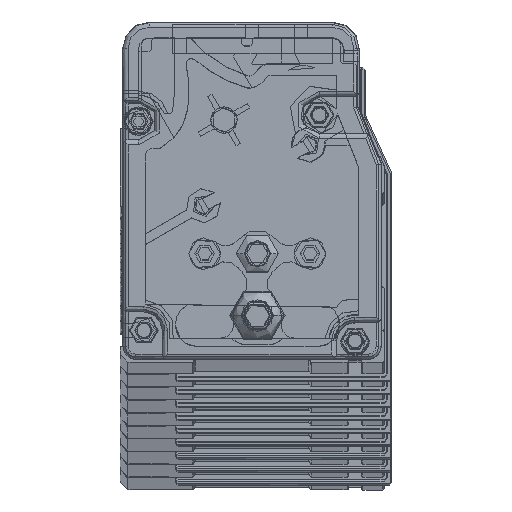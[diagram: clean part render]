
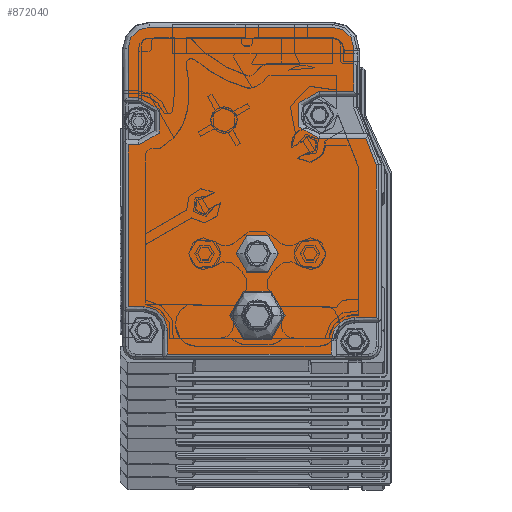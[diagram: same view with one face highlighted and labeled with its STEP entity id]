
A CAD part, top view. The second image highlights one B-rep face of the part: STEP entity #872040.
In plain terms, the highlighted planar face has unit normal (0, 0, 1).
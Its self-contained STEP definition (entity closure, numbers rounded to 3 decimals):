
#777820=CARTESIAN_POINT('',(-65.559,7.624,
2158.89));
#777830=DIRECTION('',(0.,0.,-1.));
#777840=DIRECTION('',(-1.,0.,0.));
#777850=AXIS2_PLACEMENT_3D('',#777820,#777830,#777840);
#777860=CIRCLE('',#777850,4.5);
#777870=CARTESIAN_POINT('',(-65.559,12.124,
2158.89));
#777880=VERTEX_POINT('',#777870);
#777890=CARTESIAN_POINT('',(-61.059,7.624,
2158.89));
#777900=VERTEX_POINT('',#777890);
#777910=EDGE_CURVE('',#777880,#777900,#777860,.T.);
#779530=CARTESIAN_POINT('',(-21.559,2.124,
2158.89));
#779540=DIRECTION('',(0.,-1.,0.));
#779550=VECTOR('',#779540,1.);
#779560=LINE('',#779530,#779550);
#779570=CARTESIAN_POINT('',(-21.559,38.937,
2158.89));
#779580=VERTEX_POINT('',#779570);
#779590=CARTESIAN_POINT('',(-21.559,10.124,
2158.89));
#779600=VERTEX_POINT('',#779590);
#779610=EDGE_CURVE('',#779580,#779600,#779560,.T.);
#783480=CARTESIAN_POINT('',(-20.559,10.124,
2158.89));
#783490=DIRECTION('',(1.,0.,0.));
#783500=VECTOR('',#783490,1.);
#783510=LINE('',#783480,#783500);
#783520=CARTESIAN_POINT('',(-25.559,10.124,
2158.89));
#783530=VERTEX_POINT('',#783520);
#783540=EDGE_CURVE('',#783530,#779600,#783510,.T.);
#787970=CARTESIAN_POINT('',(-20.559,65.024,
2158.89));
#787980=DIRECTION('',(-1.,0.,0.));
#787990=VECTOR('',#787980,1.);
#788000=LINE('',#787970,#787990);
#788010=CARTESIAN_POINT('',(-29.759,65.024,
2158.89));
#788020=VERTEX_POINT('',#788010);
#788030=CARTESIAN_POINT('',(-64.559,65.024,
2158.89));
#788040=VERTEX_POINT('',#788030);
#788050=EDGE_CURVE('',#788020,#788040,#788000,.T.);
#809950=CARTESIAN_POINT('',(-25.759,2.124,
2158.89));
#809960=DIRECTION('',(0.,1.,0.));
#809970=VECTOR('',#809960,1.);
#809980=LINE('',#809950,#809970);
#809990=CARTESIAN_POINT('',(-25.759,52.924,
2158.89));
#810000=VERTEX_POINT('',#809990);
#810010=CARTESIAN_POINT('',(-25.759,61.024,
2158.89));
#810020=VERTEX_POINT('',#810010);
#810030=EDGE_CURVE('',#810000,#810020,#809980,.T.);
#810840=CARTESIAN_POINT('',(-32.309,48.424,
2158.89));
#810850=DIRECTION('',(0.,0.,-1.));
#810860=DIRECTION('',(-1.,0.,0.));
#810870=AXIS2_PLACEMENT_3D('',#810840,#810850,#810860);
#810880=CIRCLE('',#810870,4.5);
#810890=CARTESIAN_POINT('',(-32.309,43.924,
2158.89));
#810900=VERTEX_POINT('',#810890);
#810910=CARTESIAN_POINT('',(-32.309,52.924,
2158.89));
#810920=VERTEX_POINT('',#810910);
#810930=EDGE_CURVE('',#810900,#810920,#810880,.T.);
#835730=CARTESIAN_POINT('',(-68.559,2.124,
2158.89));
#835740=DIRECTION('',(0.,-1.,0.));
#835750=VECTOR('',#835740,1.);
#835760=LINE('',#835730,#835750);
#835770=CARTESIAN_POINT('',(-68.559,61.024,
2158.89));
#835780=VERTEX_POINT('',#835770);
#835790=CARTESIAN_POINT('',(-68.559,51.727,
2158.89));
#835800=VERTEX_POINT('',#835790);
#835810=EDGE_CURVE('',#835780,#835800,#835760,.T.);
#836290=CARTESIAN_POINT('',(-20.559,51.727,
2158.89));
#836300=DIRECTION('',(1.,0.,0.));
#836310=VECTOR('',#836300,1.);
#836320=LINE('',#836290,#836310);
#836330=CARTESIAN_POINT('',(-66.559,51.727,
2158.89));
#836340=VERTEX_POINT('',#836330);
#836350=EDGE_CURVE('',#835800,#836340,#836320,.T.);
#836970=CARTESIAN_POINT('',(-25.559,5.624,
2158.89));
#836980=DIRECTION('',(0.,0.,-1.));
#836990=DIRECTION('',(-1.,0.,0.));
#837000=AXIS2_PLACEMENT_3D('',#836970,#836980,#836990);
#837010=CIRCLE('',#837000,4.5);
#837020=CARTESIAN_POINT('',(-30.059,5.624,
2158.89));
#837030=VERTEX_POINT('',#837020);
#837040=EDGE_CURVE('',#837030,#783530,#837010,.T.);
#870500=CARTESIAN_POINT('',(-7.243,2.124,
2158.89));
#870510=DIRECTION('',(0.362,-0.932,0.));
#870520=VECTOR('',#870510,1.);
#870530=LINE('',#870500,#870520);
#870540=CARTESIAN_POINT('',(-23.499,43.924,
2158.89));
#870550=VERTEX_POINT('',#870540);
#870560=EDGE_CURVE('',#870550,#779580,#870530,.T.);
#870780=CARTESIAN_POINT('',(-20.265,1.758,
2158.89));
#870790=DIRECTION('',(0.,0.,-1.));
#870800=DIRECTION('',(-1.,0.,0.));
#870810=AXIS2_PLACEMENT_3D('',#870780,#870790,#870800);
#870820=PLANE('',#870810);
#870830=CARTESIAN_POINT('',(-44.056,10.421,
2158.89));
#870840=DIRECTION('',(0.,0.,-1.));
#870850=DIRECTION('',(-1.,0.,0.));
#870860=AXIS2_PLACEMENT_3D('',#870830,#870840,#870850);
#870870=CIRCLE('',#870860,5.);
#870880=CARTESIAN_POINT('',(-39.056,10.421,
2158.89));
#870890=VERTEX_POINT('',#870880);
#870900=CARTESIAN_POINT('',(-49.056,10.421,
2158.89));
#870910=VERTEX_POINT('',#870900);
#870920=EDGE_CURVE('',#870890,#870910,#870870,.T.);
#870930=ORIENTED_EDGE('',*,*,#870920,.T.);
#870940=EDGE_CURVE('',#870910,#870890,#870870,.T.);
#870950=ORIENTED_EDGE('',*,*,#870940,.T.);
#870960=EDGE_LOOP('',(#870950,#870930));
#870970=FACE_BOUND('',#870960,.T.);
#870980=CARTESIAN_POINT('',(-44.059,22.124,
2158.89));
#870990=DIRECTION('',(0.,0.,1.));
#871000=DIRECTION('',(-1.,0.,0.));
#871010=AXIS2_PLACEMENT_3D('',#870980,#870990,#871000);
#871020=CIRCLE('',#871010,4.);
#871030=CARTESIAN_POINT('',(-40.059,22.124,
2158.89));
#871040=VERTEX_POINT('',#871030);
#871050=CARTESIAN_POINT('',(-48.059,22.124,
2158.89));
#871060=VERTEX_POINT('',#871050);
#871070=EDGE_CURVE('',#871040,#871060,#871020,.T.);
#871080=ORIENTED_EDGE('',*,*,#871070,.F.);
#871090=EDGE_CURVE('',#871060,#871040,#871020,.T.);
#871100=ORIENTED_EDGE('',*,*,#871090,.F.);
#871110=EDGE_LOOP('',(#871100,#871080));
#871120=FACE_BOUND('',#871110,.T.);
#871130=CARTESIAN_POINT('',(-61.059,2.124,
2158.89));
#871140=DIRECTION('',(0.,-1.,0.));
#871150=VECTOR('',#871140,1.);
#871160=LINE('',#871130,#871150);
#871170=CARTESIAN_POINT('',(-61.059,3.124,
2158.89));
#871180=VERTEX_POINT('',#871170);
#871190=EDGE_CURVE('',#777900,#871180,#871160,.T.);
#871200=ORIENTED_EDGE('',*,*,#871190,.T.);
#871210=ORIENTED_EDGE('',*,*,#777910,.T.);
#871220=CARTESIAN_POINT('',(-20.559,12.124,
2158.89));
#871230=DIRECTION('',(1.,0.,0.));
#871240=VECTOR('',#871230,1.);
#871250=LINE('',#871220,#871240);
#871260=CARTESIAN_POINT('',(-68.559,12.124,
2158.89));
#871270=VERTEX_POINT('',#871260);
#871280=EDGE_CURVE('',#871270,#777880,#871250,.T.);
#871290=ORIENTED_EDGE('',*,*,#871280,.T.);
#871300=CARTESIAN_POINT('',(-68.559,2.124,
2158.89));
#871310=DIRECTION('',(0.,-1.,0.));
#871320=VECTOR('',#871310,1.);
#871330=LINE('',#871300,#871320);
#871340=CARTESIAN_POINT('',(-68.559,42.727,
2158.89));
#871350=VERTEX_POINT('',#871340);
#871360=EDGE_CURVE('',#871350,#871270,#871330,.T.);
#871370=ORIENTED_EDGE('',*,*,#871360,.T.);
#871380=CARTESIAN_POINT('',(-20.559,42.727,
2158.89));
#871390=DIRECTION('',(-1.,0.,0.));
#871400=VECTOR('',#871390,1.);
#871410=LINE('',#871380,#871400);
#871420=CARTESIAN_POINT('',(-66.559,42.727,
2158.89));
#871430=VERTEX_POINT('',#871420);
#871440=EDGE_CURVE('',#871430,#871350,#871410,.T.);
#871450=ORIENTED_EDGE('',*,*,#871440,.T.);
#871460=CARTESIAN_POINT('',(-66.559,47.227,
2158.89));
#871470=DIRECTION('',(0.,0.,-1.));
#871480=DIRECTION('',(-1.,0.,0.));
#871490=AXIS2_PLACEMENT_3D('',#871460,#871470,#871480);
#871500=CIRCLE('',#871490,4.5);
#871510=EDGE_CURVE('',#836340,#871430,#871500,.T.);
#871520=ORIENTED_EDGE('',*,*,#871510,.T.);
#871530=ORIENTED_EDGE('',*,*,#836350,.T.);
#871540=ORIENTED_EDGE('',*,*,#835810,.T.);
#871550=CARTESIAN_POINT('',(-64.559,61.024,
2158.89));
#871560=DIRECTION('',(0.,0.,1.));
#871570=DIRECTION('',(1.,0.,0.));
#871580=AXIS2_PLACEMENT_3D('',#871550,#871560,#871570);
#871590=CIRCLE('',#871580,4.);
#871600=EDGE_CURVE('',#788040,#835780,#871590,.T.);
#871610=ORIENTED_EDGE('',*,*,#871600,.T.);
#871620=ORIENTED_EDGE('',*,*,#788050,.T.);
#871630=CARTESIAN_POINT('',(-29.759,61.024,
2158.89));
#871640=DIRECTION('',(0.,0.,1.));
#871650=DIRECTION('',(1.,0.,0.));
#871660=AXIS2_PLACEMENT_3D('',#871630,#871640,#871650);
#871670=CIRCLE('',#871660,4.);
#871680=EDGE_CURVE('',#810020,#788020,#871670,.T.);
#871690=ORIENTED_EDGE('',*,*,#871680,.T.);
#871700=ORIENTED_EDGE('',*,*,#810030,.T.);
#871710=CARTESIAN_POINT('',(-20.559,52.924,
2158.89));
#871720=DIRECTION('',(-1.,0.,0.));
#871730=VECTOR('',#871720,1.);
#871740=LINE('',#871710,#871730);
#871750=EDGE_CURVE('',#810000,#810920,#871740,.T.);
#871760=ORIENTED_EDGE('',*,*,#871750,.F.);
#871770=ORIENTED_EDGE('',*,*,#810930,.T.);
#871780=CARTESIAN_POINT('',(-20.559,43.924,
2158.89));
#871790=DIRECTION('',(-1.,0.,0.));
#871800=VECTOR('',#871790,1.);
#871810=LINE('',#871780,#871800);
#871820=EDGE_CURVE('',#870550,#810900,#871810,.T.);
#871830=ORIENTED_EDGE('',*,*,#871820,.T.);
#871840=ORIENTED_EDGE('',*,*,#870560,.F.);
#871850=ORIENTED_EDGE('',*,*,#779610,.F.);
#871860=ORIENTED_EDGE('',*,*,#783540,.T.);
#871870=ORIENTED_EDGE('',*,*,#837040,.T.);
#871880=CARTESIAN_POINT('',(-30.059,2.124,
2158.89));
#871890=DIRECTION('',(0.,1.,0.));
#871900=VECTOR('',#871890,1.);
#871910=LINE('',#871880,#871900);
#871920=CARTESIAN_POINT('',(-30.059,3.124,
2158.89));
#871930=VERTEX_POINT('',#871920);
#871940=EDGE_CURVE('',#871930,#837030,#871910,.T.);
#871950=ORIENTED_EDGE('',*,*,#871940,.T.);
#871960=CARTESIAN_POINT('',(-20.559,3.124,
2158.89));
#871970=DIRECTION('',(-1.,0.,0.));
#871980=VECTOR('',#871970,1.);
#871990=LINE('',#871960,#871980);
#872000=EDGE_CURVE('',#871930,#871180,#871990,.T.);
#872010=ORIENTED_EDGE('',*,*,#872000,.F.);
#872020=EDGE_LOOP('',(#872010,#871950,#871870,#871860,#871850,#871840,
#871830,#871770,#871760,#871700,#871690,#871620,#871610,#871540,#871530,
#871520,#871450,#871370,#871290,#871210,#871200));
#872030=FACE_OUTER_BOUND('',#872020,.T.);
#872040=ADVANCED_FACE('',(#870970,#871120,#872030),#870820,.F.);
